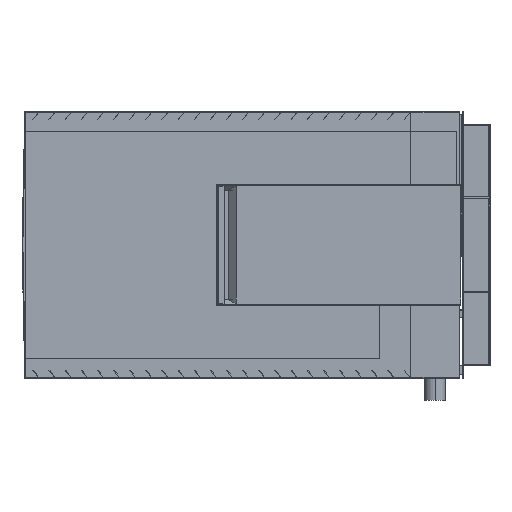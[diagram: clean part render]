
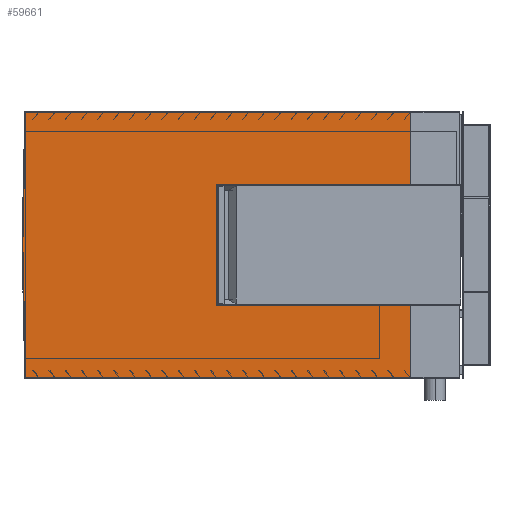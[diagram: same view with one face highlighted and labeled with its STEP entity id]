
A CAD part, left-side view. The second image highlights one B-rep face of the part: STEP entity #59661.
In plain terms, the highlighted planar face has unit normal (-1, 0, 0).
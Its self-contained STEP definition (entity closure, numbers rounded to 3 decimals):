
#1063 = VERTEX_POINT ( 'NONE', #39501 ) ;
#1505 = EDGE_CURVE ( 'NONE', #16488, #1063, #2260, .T. ) ;
#2260 = LINE ( 'NONE', #53708, #46259 ) ;
#3048 = ORIENTED_EDGE ( 'NONE', *, *, #1505, .F. ) ;
#3998 = FACE_OUTER_BOUND ( 'NONE', #41596, .T. ) ;
#4318 = PLANE ( 'NONE',  #53757 ) ;
#4598 = VECTOR ( 'NONE', #46161, 1000. ) ;
#4607 = DIRECTION ( 'NONE',  ( 0., 0., 1. ) ) ;
#4834 = DIRECTION ( 'NONE',  ( 0., 0.021, -1. ) ) ;
#5041 = CARTESIAN_POINT ( 'NONE',  ( -787.5, 1562.062, -477. ) ) ;
#5883 = VECTOR ( 'NONE', #51143, 1000. ) ;
#6206 = VERTEX_POINT ( 'NONE', #30396 ) ;
#6734 = EDGE_CURVE ( 'NONE', #6206, #16488, #35840, .T. ) ;
#15625 = EDGE_CURVE ( 'NONE', #59821, #25102, #59898, .T. ) ;
#16488 = VERTEX_POINT ( 'NONE', #39267 ) ;
#17820 = CARTESIAN_POINT ( 'NONE',  ( -787.5, 1622., 477. ) ) ;
#22344 = ORIENTED_EDGE ( 'NONE', *, *, #15625, .T. ) ;
#23097 = VECTOR ( 'NONE', #4834, 1000. ) ;
#23286 = DIRECTION ( 'NONE',  ( 1., 0., 0. ) ) ;
#24958 = CARTESIAN_POINT ( 'NONE',  ( -787.5, 1562.088, 475.752 ) ) ;
#25102 = VERTEX_POINT ( 'NONE', #5041 ) ;
#28034 = DIRECTION ( 'NONE',  ( 0., -1., 0. ) ) ;
#30396 = CARTESIAN_POINT ( 'NONE',  ( -787.5, 1562.062, 477. ) ) ;
#31245 = ORIENTED_EDGE ( 'NONE', *, *, #50367, .T. ) ;
#31858 = VECTOR ( 'NONE', #28034, 1000. ) ;
#32683 = LINE ( 'NONE', #51748, #31858 ) ;
#35840 = LINE ( 'NONE', #17820, #5883 ) ;
#36151 = CARTESIAN_POINT ( 'NONE',  ( -787.5, 1581.956, 477.834 ) ) ;
#39267 = CARTESIAN_POINT ( 'NONE',  ( -787.5, 175., 477. ) ) ;
#39501 = CARTESIAN_POINT ( 'NONE',  ( -787.5, 175., -477. ) ) ;
#41596 = EDGE_LOOP ( 'NONE', ( #31245, #22344, #53207, #3048, #52615 ) ) ;
#46161 = DIRECTION ( 'NONE',  ( 0., -0.021, -1. ) ) ;
#46259 = VECTOR ( 'NONE', #58703, 1000. ) ;
#46962 = LINE ( 'NONE', #24958, #23097 ) ;
#49012 = EDGE_CURVE ( 'NONE', #25102, #1063, #32683, .T. ) ;
#50367 = EDGE_CURVE ( 'NONE', #6206, #59821, #46962, .T. ) ;
#50404 = CARTESIAN_POINT ( 'NONE',  ( -787.5, 1572., 0. ) ) ;
#51143 = DIRECTION ( 'NONE',  ( 0., -1., 0. ) ) ;
#51379 = CARTESIAN_POINT ( 'NONE',  ( -787.5, 1622., 477. ) ) ;
#51748 = CARTESIAN_POINT ( 'NONE',  ( -787.5, 1622., -477. ) ) ;
#52615 = ORIENTED_EDGE ( 'NONE', *, *, #6734, .F. ) ;
#53207 = ORIENTED_EDGE ( 'NONE', *, *, #49012, .T. ) ;
#53708 = CARTESIAN_POINT ( 'NONE',  ( -787.5, 175., 477. ) ) ;
#53757 = AXIS2_PLACEMENT_3D ( 'NONE', #51379, #23286, #4607 ) ;
#58703 = DIRECTION ( 'NONE',  ( 0., 0., -1. ) ) ;
#59661 = ADVANCED_FACE ( 'NONE', ( #3998 ), #4318, .F. ) ;
#59821 = VERTEX_POINT ( 'NONE', #50404 ) ;
#59898 = LINE ( 'NONE', #36151, #4598 ) ;
